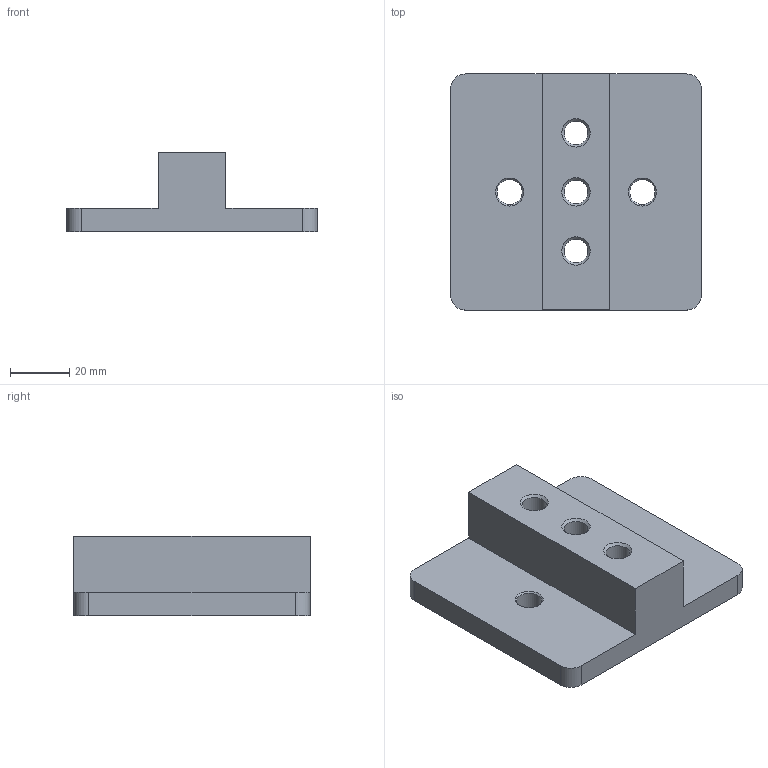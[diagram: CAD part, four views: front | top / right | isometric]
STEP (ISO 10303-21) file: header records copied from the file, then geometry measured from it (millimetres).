
FILE_DESCRIPTION(/* description */ (''),/* implementation_level */ '2;1');
FILE_NAME(/* name */ 'TRAYLOADER.90.stp',/* time_stamp */ '2025-05-12T17:10:05+02:00',/* author */ (''),/* organization */ (''),/* preprocessor_version */ 'ST-DEVELOPER v19.4',/* originating_system */ 'SIEMENS PLM Software NX2306.5001',/* authorisation */ '');
FILE_SCHEMA (('AP203_CONFIGURATION_CONTROLLED_3D_DESIGN_OF_MECHANICAL_PARTS_AND_ASSEMBLIES_MIM_LF { 1 0 10303 403 2 1 2}'));
Length unit declared in the file: millimetre
Products named in the file (1): TRAYLOADER.90_objects
Bounding box: 85 x 80 x 27 mm (x, y, z)
Volume: 84143.5 mm3; surface area: 21881.2 mm2
Topology: 1 solids, 1 shells, 29 faces, 75 edges, 48 vertices
Faces by surface type: plane 10, cone 10, cylinder 9
Full cylindrical faces by diameter (mm): 8 x3, 8.5 x2
Entity records: 884 total; most frequent: DIRECTION 144, CARTESIAN_POINT 130, ORIENTED_EDGE 112, AXIS2_PLACEMENT_3D 58, EDGE_CURVE 56, EDGE_LOOP 54, FACE_BOUND 44, VERTEX_POINT 44
